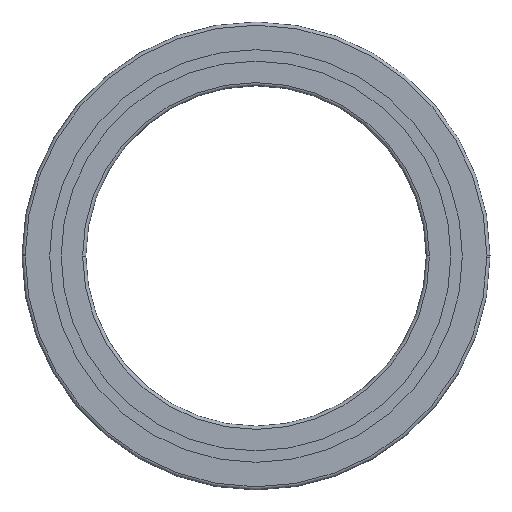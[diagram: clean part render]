
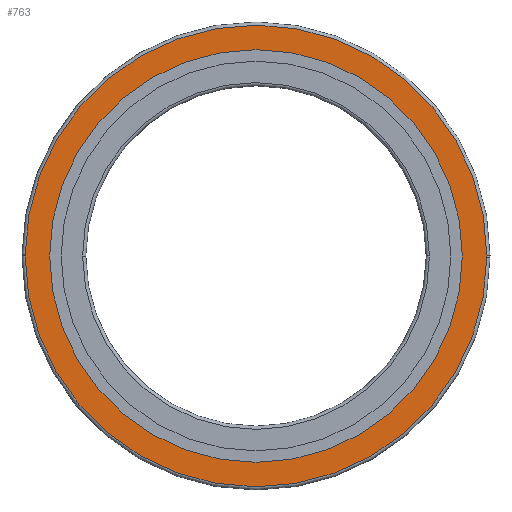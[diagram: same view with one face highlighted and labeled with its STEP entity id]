
A CAD part, front view. The second image highlights one B-rep face of the part: STEP entity #763.
In plain terms, the highlighted planar face has unit normal (0, -1, 0).
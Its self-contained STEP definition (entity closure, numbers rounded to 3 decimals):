
#331=VERTEX_POINT('',#871);
#349=VERTEX_POINT('',#890);
#407=EDGE_CURVE('',#331,#521,#958,.T.);
#521=VERTEX_POINT('',#1083);
#547=VERTEX_POINT('',#1115);
#615=VERTEX_POINT('',#1189);
#633=EDGE_CURVE('',#547,#615,#1207,.T.);
#647=EDGE_CURVE('',#615,#547,#1221,.T.);
#663=EDGE_CURVE('',#731,#331,#1240,.T.);
#695=EDGE_CURVE('',#521,#349,#1275,.T.);
#723=EDGE_CURVE('',#349,#731,#1306,.T.);
#731=VERTEX_POINT('',#1314);
#763=ADVANCED_FACE('',(#1353,#1354),#1355,.F.);
#871=CARTESIAN_POINT('',(108.498,0.0,-0.671));
#890=CARTESIAN_POINT('',(-108.498,0.0,0.671));
#958=CIRCLE('',#1583,108.5);
#1083=CARTESIAN_POINT('',(108.5,0.0,0.0));
#1115=CARTESIAN_POINT('',(97.0,0.0,0.));
#1189=CARTESIAN_POINT('',(-97.0,0.0,0.0));
#1207=CIRCLE('',#1896,97.0);
#1221=CIRCLE('',#1916,97.0);
#1240=CIRCLE('',#1937,108.5);
#1275=CIRCLE('',#1983,108.5);
#1306=CIRCLE('',#2022,108.5);
#1314=CARTESIAN_POINT('',(-108.5,0.0,0.));
#1353=FACE_OUTER_BOUND('',#2078,.T.);
#1354=FACE_BOUND('',#2079,.T.);
#1355=PLANE('',#2080);
#1583=AXIS2_PLACEMENT_3D('',#2315,#2316,#2317);
#1896=AXIS2_PLACEMENT_3D('',#2608,#2609,#2610);
#1916=AXIS2_PLACEMENT_3D('',#2621,#2622,#2623);
#1937=AXIS2_PLACEMENT_3D('',#2655,#2656,#2657);
#1983=AXIS2_PLACEMENT_3D('',#2696,#2697,#2698);
#2022=AXIS2_PLACEMENT_3D('',#2744,#2745,#2746);
#2078=EDGE_LOOP('',(#2833,#2834,#2835,#2836));
#2079=EDGE_LOOP('',(#2837,#2838));
#2080=AXIS2_PLACEMENT_3D('',#2839,#2840,#2841);
#2315=CARTESIAN_POINT('',(0.0,0.0,0.0));
#2316=DIRECTION('',(0.0,-1.0,0.0));
#2317=DIRECTION('',(-1.0,0.0,0.0));
#2608=CARTESIAN_POINT('',(0.0,0.0,0.0));
#2609=DIRECTION('',(0.0,-1.0,0.0));
#2610=DIRECTION('',(1.0,0.0,0.0));
#2621=CARTESIAN_POINT('',(0.0,0.0,0.0));
#2622=DIRECTION('',(0.0,-1.0,0.0));
#2623=DIRECTION('',(-1.0,0.0,0.0));
#2655=CARTESIAN_POINT('',(0.0,0.0,0.0));
#2656=DIRECTION('',(0.0,-1.0,0.0));
#2657=DIRECTION('',(-1.0,0.0,0.0));
#2696=CARTESIAN_POINT('',(0.0,0.0,0.0));
#2697=DIRECTION('',(0.0,-1.0,0.0));
#2698=DIRECTION('',(1.0,0.0,0.0));
#2744=CARTESIAN_POINT('',(0.0,0.0,0.0));
#2745=DIRECTION('',(0.0,-1.0,0.0));
#2746=DIRECTION('',(1.0,0.0,0.0));
#2833=ORIENTED_EDGE('',*,*,#663,.T.);
#2834=ORIENTED_EDGE('',*,*,#407,.T.);
#2835=ORIENTED_EDGE('',*,*,#695,.T.);
#2836=ORIENTED_EDGE('',*,*,#723,.T.);
#2837=ORIENTED_EDGE('',*,*,#647,.F.);
#2838=ORIENTED_EDGE('',*,*,#633,.F.);
#2839=CARTESIAN_POINT('',(0.0,0.0,0.0));
#2840=DIRECTION('',(0.0,1.0,0.0));
#2841=DIRECTION('',(1.0,0.0,-0.0));
